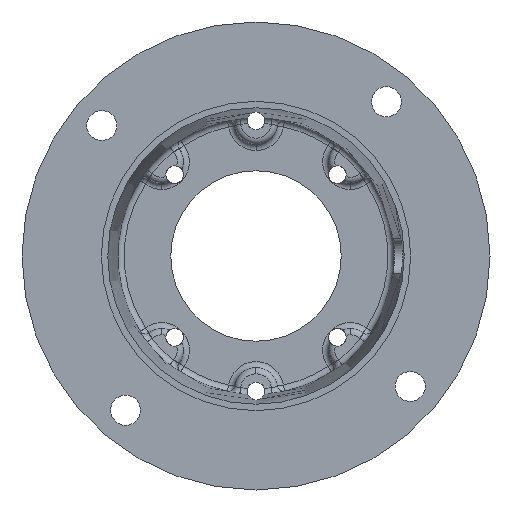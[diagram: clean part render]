
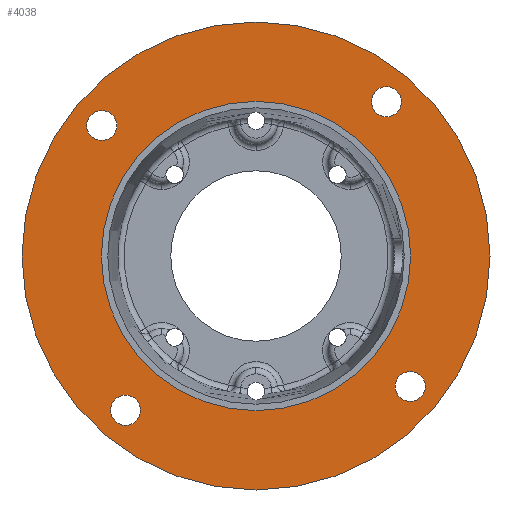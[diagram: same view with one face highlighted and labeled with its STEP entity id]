
A CAD part, front view. The second image highlights one B-rep face of the part: STEP entity #4038.
In plain terms, the highlighted planar face has unit normal (0, -1, 0).
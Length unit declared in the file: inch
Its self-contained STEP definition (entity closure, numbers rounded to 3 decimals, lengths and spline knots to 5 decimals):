
#11 = ORIENTED_EDGE ( 'NONE', *, *, #6108, .F. ) ;
#254 = DIRECTION ( 'NONE',  ( 0., 0., -1. ) ) ;
#281 = DIRECTION ( 'NONE',  ( 0., -1., 0. ) ) ;
#291 = DIRECTION ( 'NONE',  ( 0., -1., 0. ) ) ;
#310 = EDGE_CURVE ( 'NONE', #4850, #2038, #5078, .T. ) ;
#331 = FACE_BOUND ( 'NONE', #879, .T. ) ;
#388 = AXIS2_PLACEMENT_3D ( 'NONE', #4019, #291, #4672 ) ;
#495 = CIRCLE ( 'NONE', #923, 2.2505 ) ;
#505 = DIRECTION ( 'NONE',  ( 0., -1., 0. ) ) ;
#521 = EDGE_LOOP ( 'NONE', ( #908, #7334 ) ) ;
#610 = VERTEX_POINT ( 'NONE', #7714 ) ;
#628 = DIRECTION ( 'NONE',  ( 0., -1., 0. ) ) ;
#656 = AXIS2_PLACEMENT_3D ( 'NONE', #5251, #1496, #5895 ) ;
#717 = CARTESIAN_POINT ( 'NONE',  ( -2.24475, 0.103, 1.89861 ) ) ;
#789 = VERTEX_POINT ( 'NONE', #1342 ) ;
#805 = DIRECTION ( 'NONE',  ( 0., -1., 0. ) ) ;
#879 = EDGE_LOOP ( 'NONE', ( #3022, #11 ) ) ;
#908 = ORIENTED_EDGE ( 'NONE', *, *, #5035, .T. ) ;
#923 = AXIS2_PLACEMENT_3D ( 'NONE', #4554, #805, #5177 ) ;
#943 = ORIENTED_EDGE ( 'NONE', *, *, #1834, .F. ) ;
#946 = DIRECTION ( 'NONE',  ( 0., -1., 0. ) ) ;
#956 = CARTESIAN_POINT ( 'NONE',  ( 2.24475, 0.103, -1.89861 ) ) ;
#1033 = CARTESIAN_POINT ( 'NONE',  ( -2.24475, 0.103, 2.11736 ) ) ;
#1161 = CIRCLE ( 'NONE', #8078, 0.21875 ) ;
#1259 = DIRECTION ( 'NONE',  ( 0., 0., -1. ) ) ;
#1281 = ORIENTED_EDGE ( 'NONE', *, *, #2923, .F. ) ;
#1285 = VERTEX_POINT ( 'NONE', #3980 ) ;
#1332 = DIRECTION ( 'NONE',  ( 0., 0., -1. ) ) ;
#1342 = CARTESIAN_POINT ( 'NONE',  ( -2.24475, 0.103, 1.67986 ) ) ;
#1369 = CIRCLE ( 'NONE', #5957, 3.405 ) ;
#1386 = AXIS2_PLACEMENT_3D ( 'NONE', #7476, #5020, #1259 ) ;
#1410 = EDGE_CURVE ( 'NONE', #789, #4429, #1161, .T. ) ;
#1496 = DIRECTION ( 'NONE',  ( 0., -1., 0. ) ) ;
#1529 = AXIS2_PLACEMENT_3D ( 'NONE', #4013, #281, #4667 ) ;
#1561 = CIRCLE ( 'NONE', #4733, 0.21875 ) ;
#1584 = DIRECTION ( 'NONE',  ( 0., 0., -1. ) ) ;
#1585 = EDGE_LOOP ( 'NONE', ( #943, #6000 ) ) ;
#1732 = ORIENTED_EDGE ( 'NONE', *, *, #4881, .F. ) ;
#1743 = ORIENTED_EDGE ( 'NONE', *, *, #3858, .F. ) ;
#1753 = CIRCLE ( 'NONE', #6373, 0.21875 ) ;
#1808 = CARTESIAN_POINT ( 'NONE',  ( 0., 0.103, -2.2505 ) ) ;
#1834 = EDGE_CURVE ( 'NONE', #3789, #610, #4986, .T. ) ;
#1893 = CARTESIAN_POINT ( 'NONE',  ( -1.89861, 0.103, -2.4635 ) ) ;
#1999 = FACE_OUTER_BOUND ( 'NONE', #521, .T. ) ;
#2038 = VERTEX_POINT ( 'NONE', #6622 ) ;
#2150 = EDGE_CURVE ( 'NONE', #610, #3789, #1561, .T. ) ;
#2196 = EDGE_CURVE ( 'NONE', #2038, #4850, #2822, .T. ) ;
#2261 = AXIS2_PLACEMENT_3D ( 'NONE', #4372, #628, #5010 ) ;
#2321 = DIRECTION ( 'NONE',  ( 0., -1., 0. ) ) ;
#2357 = ORIENTED_EDGE ( 'NONE', *, *, #4360, .F. ) ;
#2382 = CARTESIAN_POINT ( 'NONE',  ( 2.24475, 0.103, -1.67986 ) ) ;
#2498 = CIRCLE ( 'NONE', #388, 3.405 ) ;
#2601 = AXIS2_PLACEMENT_3D ( 'NONE', #717, #5093, #1332 ) ;
#2822 = CIRCLE ( 'NONE', #6002, 0.21875 ) ;
#2923 = EDGE_CURVE ( 'NONE', #1285, #4541, #1753, .T. ) ;
#2988 = CARTESIAN_POINT ( 'NONE',  ( 0., 0.103, 2.2505 ) ) ;
#3022 = ORIENTED_EDGE ( 'NONE', *, *, #1410, .F. ) ;
#3145 = EDGE_LOOP ( 'NONE', ( #6356, #6542 ) ) ;
#3643 = FACE_BOUND ( 'NONE', #3145, .T. ) ;
#3657 = DIRECTION ( 'NONE',  ( 0., -1., 0. ) ) ;
#3789 = VERTEX_POINT ( 'NONE', #1893 ) ;
#3858 = EDGE_CURVE ( 'NONE', #4645, #6344, #6132, .T. ) ;
#3980 = CARTESIAN_POINT ( 'NONE',  ( 2.24475, 0.103, -2.11736 ) ) ;
#3988 = DIRECTION ( 'NONE',  ( 0., -1., 0. ) ) ;
#4013 = CARTESIAN_POINT ( 'NONE',  ( 0., 0.103, 0. ) ) ;
#4019 = CARTESIAN_POINT ( 'NONE',  ( 0., 0.103, 0. ) ) ;
#4038 = ADVANCED_FACE ( 'NONE', ( #3643, #331, #7004, #6813, #5144, #1999 ), #4382, .T. ) ;
#4242 = CARTESIAN_POINT ( 'NONE',  ( -1.89861, 0.103, -2.24475 ) ) ;
#4360 = EDGE_CURVE ( 'NONE', #4541, #1285, #7487, .T. ) ;
#4372 = CARTESIAN_POINT ( 'NONE',  ( 1.89861, 0.103, 2.24475 ) ) ;
#4382 = PLANE ( 'NONE',  #1386 ) ;
#4391 = EDGE_CURVE ( 'NONE', #7672, #6763, #2498, .T. ) ;
#4429 = VERTEX_POINT ( 'NONE', #1033 ) ;
#4541 = VERTEX_POINT ( 'NONE', #2382 ) ;
#4554 = CARTESIAN_POINT ( 'NONE',  ( 0., 0.103, 0. ) ) ;
#4645 = VERTEX_POINT ( 'NONE', #1808 ) ;
#4667 = DIRECTION ( 'NONE',  ( 0., 0., -1. ) ) ;
#4672 = DIRECTION ( 'NONE',  ( 0., 0., -1. ) ) ;
#4699 = CARTESIAN_POINT ( 'NONE',  ( -2.24475, 0.103, 1.89861 ) ) ;
#4733 = AXIS2_PLACEMENT_3D ( 'NONE', #4242, #505, #4880 ) ;
#4850 = VERTEX_POINT ( 'NONE', #7634 ) ;
#4880 = DIRECTION ( 'NONE',  ( 0., 0., -1. ) ) ;
#4881 = EDGE_CURVE ( 'NONE', #6344, #4645, #495, .T. ) ;
#4986 = CIRCLE ( 'NONE', #656, 0.21875 ) ;
#5010 = DIRECTION ( 'NONE',  ( 0., 0., -1. ) ) ;
#5020 = DIRECTION ( 'NONE',  ( 0., -1., 0. ) ) ;
#5035 = EDGE_CURVE ( 'NONE', #6763, #7672, #1369, .T. ) ;
#5078 = CIRCLE ( 'NONE', #2261, 0.21875 ) ;
#5093 = DIRECTION ( 'NONE',  ( 0., -1., 0. ) ) ;
#5144 = FACE_BOUND ( 'NONE', #6669, .T. ) ;
#5177 = DIRECTION ( 'NONE',  ( 0., 0., -1. ) ) ;
#5251 = CARTESIAN_POINT ( 'NONE',  ( -1.89861, 0.103, -2.24475 ) ) ;
#5333 = DIRECTION ( 'NONE',  ( 0., 0., -1. ) ) ;
#5343 = DIRECTION ( 'NONE',  ( 0., -1., 0. ) ) ;
#5895 = DIRECTION ( 'NONE',  ( 0., 0., -1. ) ) ;
#5957 = AXIS2_PLACEMENT_3D ( 'NONE', #6098, #2321, #6715 ) ;
#5981 = CARTESIAN_POINT ( 'NONE',  ( 0., 0.103, 3.405 ) ) ;
#6000 = ORIENTED_EDGE ( 'NONE', *, *, #2150, .F. ) ;
#6002 = AXIS2_PLACEMENT_3D ( 'NONE', #7421, #3657, #8047 ) ;
#6098 = CARTESIAN_POINT ( 'NONE',  ( 0., 0.103, 0. ) ) ;
#6108 = EDGE_CURVE ( 'NONE', #4429, #789, #7427, .T. ) ;
#6132 = CIRCLE ( 'NONE', #1529, 2.2505 ) ;
#6344 = VERTEX_POINT ( 'NONE', #2988 ) ;
#6356 = ORIENTED_EDGE ( 'NONE', *, *, #310, .F. ) ;
#6373 = AXIS2_PLACEMENT_3D ( 'NONE', #956, #5343, #1584 ) ;
#6542 = ORIENTED_EDGE ( 'NONE', *, *, #2196, .F. ) ;
#6622 = CARTESIAN_POINT ( 'NONE',  ( 1.89861, 0.103, 2.4635 ) ) ;
#6669 = EDGE_LOOP ( 'NONE', ( #1743, #1732 ) ) ;
#6715 = DIRECTION ( 'NONE',  ( 0., 0., -1. ) ) ;
#6763 = VERTEX_POINT ( 'NONE', #8011 ) ;
#6813 = FACE_BOUND ( 'NONE', #1585, .T. ) ;
#6847 = AXIS2_PLACEMENT_3D ( 'NONE', #7752, #3988, #254 ) ;
#7004 = FACE_BOUND ( 'NONE', #7845, .T. ) ;
#7334 = ORIENTED_EDGE ( 'NONE', *, *, #4391, .T. ) ;
#7421 = CARTESIAN_POINT ( 'NONE',  ( 1.89861, 0.103, 2.24475 ) ) ;
#7427 = CIRCLE ( 'NONE', #2601, 0.21875 ) ;
#7476 = CARTESIAN_POINT ( 'NONE',  ( 0., 0.103, 0. ) ) ;
#7487 = CIRCLE ( 'NONE', #6847, 0.21875 ) ;
#7634 = CARTESIAN_POINT ( 'NONE',  ( 1.89861, 0.103, 2.026 ) ) ;
#7672 = VERTEX_POINT ( 'NONE', #5981 ) ;
#7714 = CARTESIAN_POINT ( 'NONE',  ( -1.89861, 0.103, -2.026 ) ) ;
#7752 = CARTESIAN_POINT ( 'NONE',  ( 2.24475, 0.103, -1.89861 ) ) ;
#7845 = EDGE_LOOP ( 'NONE', ( #1281, #2357 ) ) ;
#8011 = CARTESIAN_POINT ( 'NONE',  ( 0., 0.103, -3.405 ) ) ;
#8047 = DIRECTION ( 'NONE',  ( 0., 0., -1. ) ) ;
#8078 = AXIS2_PLACEMENT_3D ( 'NONE', #4699, #946, #5333 ) ;
